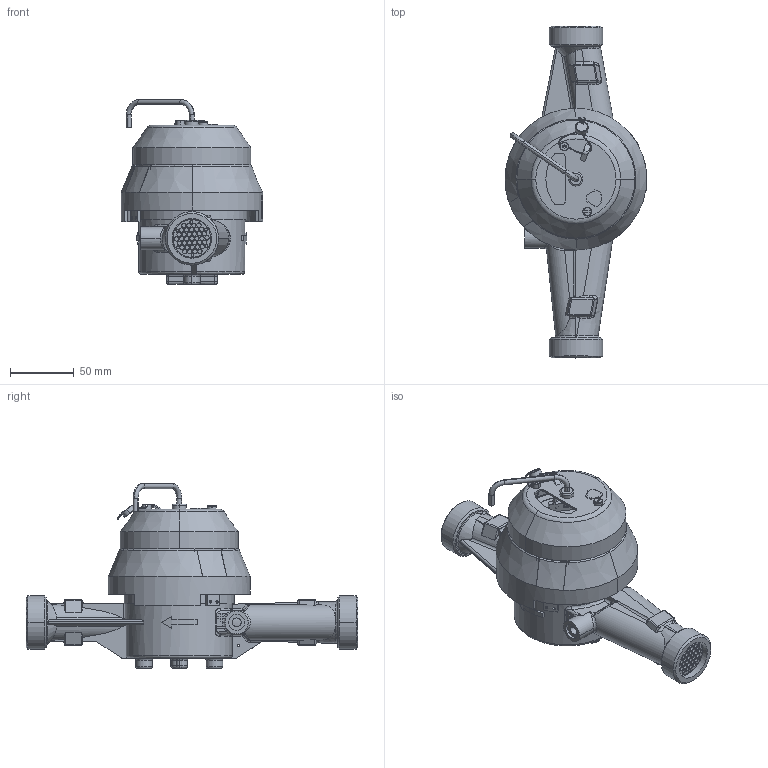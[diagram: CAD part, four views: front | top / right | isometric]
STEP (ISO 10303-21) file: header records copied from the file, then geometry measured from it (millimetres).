
FILE_DESCRIPTION (( 'STEP AP214' ), '1' );
FILE_NAME ('JS130-6-NC.STEP', '2025-07-31T12:04:46', ( '' ), ( '' ), 'SwSTEP 2.0', 'SolidWorks 2019', '' );
FILE_SCHEMA (( 'AUTOMOTIVE_DESIGN' ));
Length unit declared in the file: millimetre
Products named in the file (1): JS130-6-NC
Bounding box: 111.19 x 260 x 144.91 mm (x, y, z)
Volume: 694937.4 mm3; surface area: 171114.5 mm2
Topology: 18 solids, 25 shells, 1189 faces, 3106 edges, 1947 vertices
Faces by surface type: plane 489, cylinder 455, cone 88, torus 74, bspline 61, sphere 22
Entity records: 55689 total; most frequent: CARTESIAN_POINT 13925, ORIENTED_EDGE 6134, DIRECTION 5979, EDGE_CURVE 3067, AXIS2_PLACEMENT_3D 2234, VERTEX_POINT 1947, VECTOR 1511, LINE 1511
